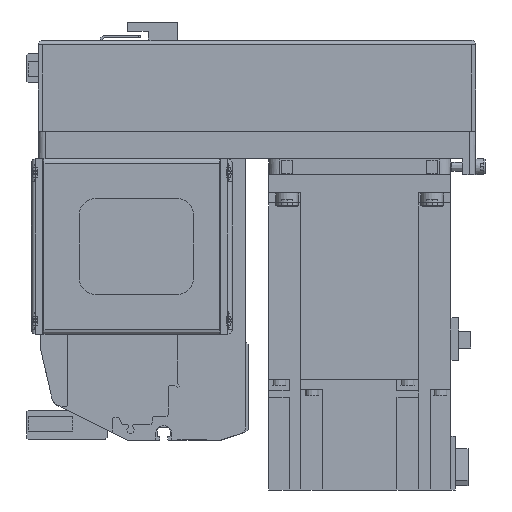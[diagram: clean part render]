
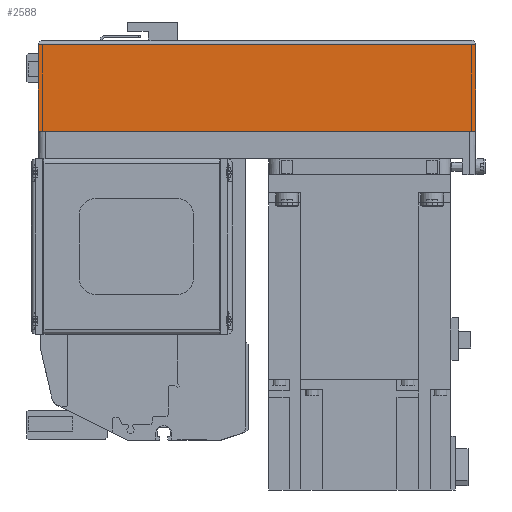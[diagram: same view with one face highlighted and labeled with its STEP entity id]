
A CAD part, left-side view. The second image highlights one B-rep face of the part: STEP entity #2588.
In plain terms, the highlighted planar face has unit normal (-1, 0, 0) as drawn and (0, -1, 0) by its records, which use the part's own axes.
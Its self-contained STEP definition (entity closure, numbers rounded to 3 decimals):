
#2588 = ADVANCED_FACE( '', ( #5828 ), #5829, .T. );
#5828 = FACE_OUTER_BOUND( '', #9818, .T. );
#5829 = PLANE( '', #9819 );
#9818 = EDGE_LOOP( '', ( #17221, #17222, #17223, #17224 ) );
#9819 = AXIS2_PLACEMENT_3D( '', #17225, #17226, #17227 );
#17221 = ORIENTED_EDGE( '', *, *, #24594, .F. );
#17222 = ORIENTED_EDGE( '', *, *, #24920, .F. );
#17223 = ORIENTED_EDGE( '', *, *, #22316, .T. );
#17224 = ORIENTED_EDGE( '', *, *, #24921, .T. );
#17225 = CARTESIAN_POINT( '', ( -192., -40., -12.1 ) );
#17226 = DIRECTION( '', ( 0., -1., 0. ) );
#17227 = DIRECTION( '', ( 0., 0., -1. ) );
#22316 = EDGE_CURVE( '', #26491, #26489, #26492, .T. );
#24594 = EDGE_CURVE( '', #29666, #27719, #30194, .T. );
#24920 = EDGE_CURVE( '', #26491, #29666, #30641, .T. );
#24921 = EDGE_CURVE( '', #26489, #27719, #30642, .T. );
#26489 = VERTEX_POINT( '', #32614 );
#26491 = VERTEX_POINT( '', #32617 );
#26492 = LINE( '', #32618, #32619 );
#27719 = VERTEX_POINT( '', #34920 );
#29666 = VERTEX_POINT( '', #37863 );
#30194 = LINE( '', #38723, #38724 );
#30641 = LINE( '', #39652, #39653 );
#30642 = LINE( '', #39654, #39655 );
#32614 = CARTESIAN_POINT( '', ( -192., -40., -50. ) );
#32617 = CARTESIAN_POINT( '', ( -192., -40., -12.1 ) );
#32618 = CARTESIAN_POINT( '', ( -192., -40., -12.1 ) );
#32619 = VECTOR( '', #41941, 1000. );
#34920 = CARTESIAN_POINT( '', ( 0., -40., -50. ) );
#37863 = CARTESIAN_POINT( '', ( 0., -40., -12.1 ) );
#38723 = CARTESIAN_POINT( '', ( 0., -40., -12.1 ) );
#38724 = VECTOR( '', #44851, 1000. );
#39652 = CARTESIAN_POINT( '', ( -192., -40., -12.1 ) );
#39653 = VECTOR( '', #45212, 1000. );
#39654 = CARTESIAN_POINT( '', ( -192., -40., -50. ) );
#39655 = VECTOR( '', #45213, 1000. );
#41941 = DIRECTION( '', ( 0., 0., -1. ) );
#44851 = DIRECTION( '', ( 0., 0., -1. ) );
#45212 = DIRECTION( '', ( 1., 0., 0. ) );
#45213 = DIRECTION( '', ( 1., 0., 0. ) );
